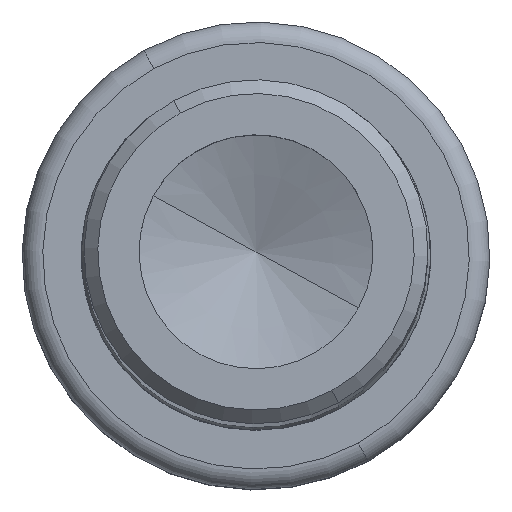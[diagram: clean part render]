
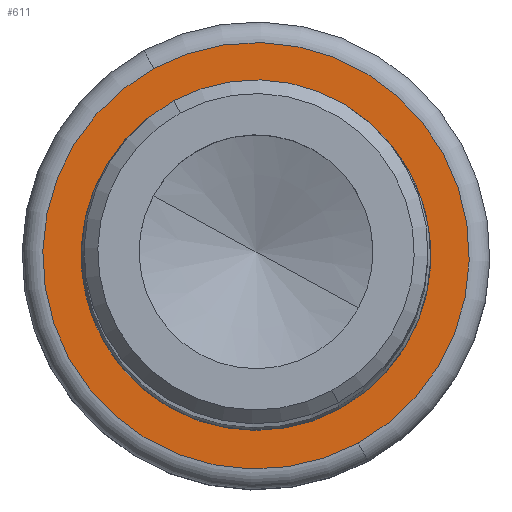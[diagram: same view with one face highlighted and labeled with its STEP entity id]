
A CAD part, top view. The second image highlights one B-rep face of the part: STEP entity #611.
In plain terms, the highlighted planar face has unit normal (0, 0, 1).
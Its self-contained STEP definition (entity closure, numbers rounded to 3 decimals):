
#562=AXIS2_PLACEMENT_3D('Circle Axis2P3D',#560,#561,$) ;
#574=AXIS2_PLACEMENT_3D('Circle Axis2P3D',#572,#573,$) ;
#587=AXIS2_PLACEMENT_3D('Plane Axis2P3D',#584,#585,#586) ;
#591=AXIS2_PLACEMENT_3D('Circle Axis2P3D',#589,#590,$) ;
#600=AXIS2_PLACEMENT_3D('Circle Axis2P3D',#598,#599,$) ;
#550=CARTESIAN_POINT('Vertex',(5.993,10.97,-167.)) ;
#557=CARTESIAN_POINT('Vertex',(-5.993,-10.97,-167.)) ;
#560=CARTESIAN_POINT('Axis2P3D Location',(0.,0.,-167.)) ;
#572=CARTESIAN_POINT('Axis2P3D Location',(0.,0.,-167.)) ;
#584=CARTESIAN_POINT('Axis2P3D Location',(0.,0.,-167.)) ;
#589=CARTESIAN_POINT('Axis2P3D Location',(0.,0.,-167.)) ;
#593=CARTESIAN_POINT('Vertex',(7.431,-13.603,-167.)) ;
#595=CARTESIAN_POINT('Vertex',(-7.431,13.603,-167.)) ;
#598=CARTESIAN_POINT('Axis2P3D Location',(0.,0.,-167.)) ;
#561=DIRECTION('Axis2P3D Direction',(0.,0.,-1.)) ;
#573=DIRECTION('Axis2P3D Direction',(0.,0.,-1.)) ;
#585=DIRECTION('Axis2P3D Direction',(0.,0.,1.)) ;
#586=DIRECTION('Axis2P3D XDirection',(1.,0.,0.)) ;
#590=DIRECTION('Axis2P3D Direction',(0.,0.,1.)) ;
#599=DIRECTION('Axis2P3D Direction',(0.,0.,1.)) ;
#604=ORIENTED_EDGE('',*,*,#597,.T.) ;
#605=ORIENTED_EDGE('',*,*,#602,.T.) ;
#608=ORIENTED_EDGE('',*,*,#564,.F.) ;
#609=ORIENTED_EDGE('',*,*,#576,.F.) ;
#610=FACE_BOUND('',#607,.T.) ;
#611=ADVANCED_FACE('NOCUT',(#606,#610),#588,.T.) ;
#563=CIRCLE('generated circle',#562,12.5) ;
#575=CIRCLE('generated circle',#574,12.5) ;
#592=CIRCLE('generated circle',#591,15.5) ;
#601=CIRCLE('generated circle',#600,15.5) ;
#564=EDGE_CURVE('',#558,#551,#563,.F.) ;
#576=EDGE_CURVE('',#551,#558,#575,.F.) ;
#597=EDGE_CURVE('',#594,#596,#592,.T.) ;
#602=EDGE_CURVE('',#596,#594,#601,.T.) ;
#603=EDGE_LOOP('',(#604,#605)) ;
#607=EDGE_LOOP('',(#608,#609)) ;
#606=FACE_OUTER_BOUND('',#603,.T.) ;
#588=PLANE('',#587) ;
#551=VERTEX_POINT('',#550) ;
#558=VERTEX_POINT('',#557) ;
#594=VERTEX_POINT('',#593) ;
#596=VERTEX_POINT('',#595) ;
